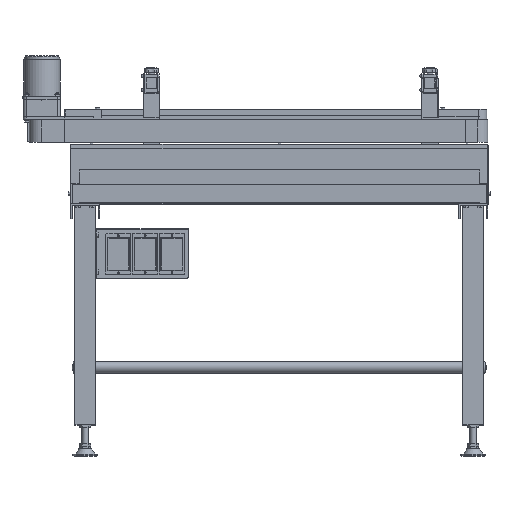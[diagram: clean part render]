
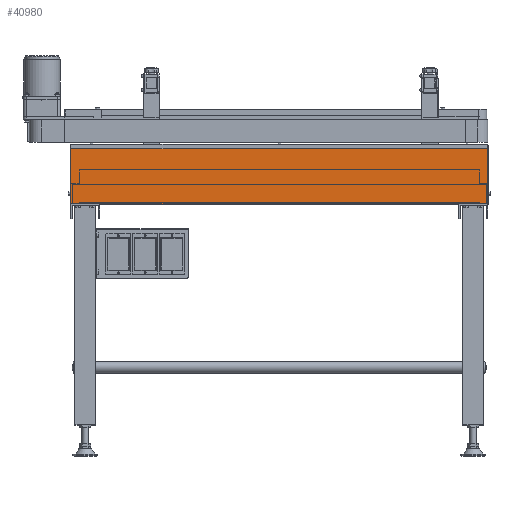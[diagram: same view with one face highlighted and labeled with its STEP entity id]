
A CAD part, top view. The second image highlights one B-rep face of the part: STEP entity #40980.
In plain terms, the highlighted planar face has unit normal (0, 0, 1).
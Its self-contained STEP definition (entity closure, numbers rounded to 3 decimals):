
#1831 = ORIENTED_EDGE ( 'NONE', *, *, #14612, .F. ) ;
#5976 = ORIENTED_EDGE ( 'NONE', *, *, #57259, .T. ) ;
#8262 = ORIENTED_EDGE ( 'NONE', *, *, #22716, .T. ) ;
#9541 = ORIENTED_EDGE ( 'NONE', *, *, #20707, .F. ) ;
#10445 = DIRECTION ( 'NONE',  ( -1., 0., 0. ) ) ;
#12563 = DIRECTION ( 'NONE',  ( 0., 0., -1. ) ) ;
#14612 = EDGE_CURVE ( 'NONE', #42202, #23717, #30474, .T. ) ;
#15450 = VECTOR ( 'NONE', #17490, 1000. ) ;
#17253 = CARTESIAN_POINT ( 'NONE',  ( 1010., 2., 350. ) ) ;
#17490 = DIRECTION ( 'NONE',  ( 0., -1., 0. ) ) ;
#18515 = PLANE ( 'NONE',  #47563 ) ;
#19994 = LINE ( 'NONE', #47007, #15450 ) ;
#20707 = EDGE_CURVE ( 'NONE', #23717, #47284, #48418, .T. ) ;
#22555 = VECTOR ( 'NONE', #23323, 1000. ) ;
#22716 = EDGE_CURVE ( 'NONE', #42202, #54879, #28640, .T. ) ;
#23323 = DIRECTION ( 'NONE',  ( -1., 0., 0. ) ) ;
#23717 = VERTEX_POINT ( 'NONE', #33307 ) ;
#27174 = DIRECTION ( 'NONE',  ( 0., -1., 0. ) ) ;
#28594 = CARTESIAN_POINT ( 'NONE',  ( 1010., -6., 350. ) ) ;
#28640 = LINE ( 'NONE', #58646, #42937 ) ;
#30474 = LINE ( 'NONE', #41647, #41095 ) ;
#32505 = CARTESIAN_POINT ( 'NONE',  ( 0., -140., 350. ) ) ;
#33307 = CARTESIAN_POINT ( 'NONE',  ( 1010., -140., 350. ) ) ;
#33429 = DIRECTION ( 'NONE',  ( 0., 1., 0. ) ) ;
#37910 = CARTESIAN_POINT ( 'NONE',  ( 0., -6., 350. ) ) ;
#40980 = ADVANCED_FACE ( 'NONE', ( #54408 ), #18515, .F. ) ;
#41095 = VECTOR ( 'NONE', #27174, 1000. ) ;
#41647 = CARTESIAN_POINT ( 'NONE',  ( 1010., 2., 350. ) ) ;
#42202 = VERTEX_POINT ( 'NONE', #28594 ) ;
#42937 = VECTOR ( 'NONE', #10445, 1000. ) ;
#47007 = CARTESIAN_POINT ( 'NONE',  ( 0., 2., 350. ) ) ;
#47284 = VERTEX_POINT ( 'NONE', #32505 ) ;
#47563 = AXIS2_PLACEMENT_3D ( 'NONE', #17253, #12563, #33429 ) ;
#48418 = LINE ( 'NONE', #56430, #22555 ) ;
#54408 = FACE_OUTER_BOUND ( 'NONE', #54487, .T. ) ;
#54487 = EDGE_LOOP ( 'NONE', ( #1831, #8262, #5976, #9541 ) ) ;
#54879 = VERTEX_POINT ( 'NONE', #37910 ) ;
#56430 = CARTESIAN_POINT ( 'NONE',  ( 1010., -140., 350. ) ) ;
#57259 = EDGE_CURVE ( 'NONE', #54879, #47284, #19994, .T. ) ;
#58646 = CARTESIAN_POINT ( 'NONE',  ( 1112.489, -6., 350. ) ) ;
